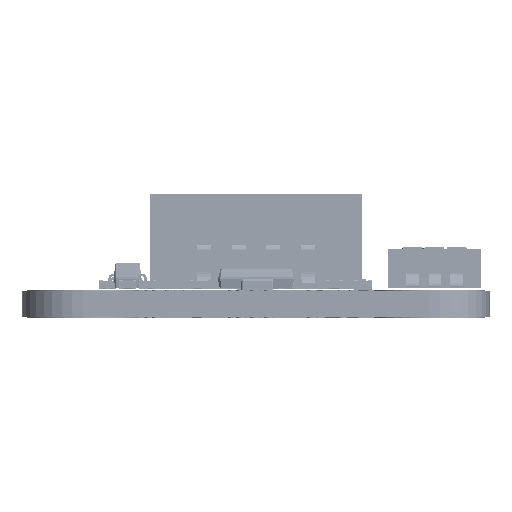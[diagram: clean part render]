
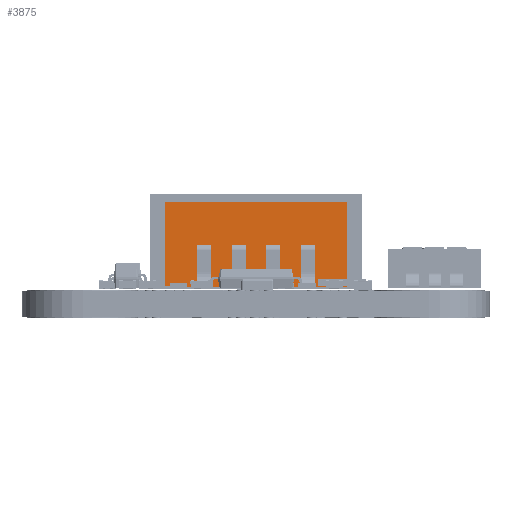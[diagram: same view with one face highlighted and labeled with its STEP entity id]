
A CAD part, left-side view. The second image highlights one B-rep face of the part: STEP entity #3875.
In plain terms, the highlighted planar face has unit normal (-1, 0, 0).
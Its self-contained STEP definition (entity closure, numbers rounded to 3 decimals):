
#3875=ADVANCED_FACE('',(#12161),#135298,.T.);
#12161=FACE_OUTER_BOUND('',#20540,.T.);
#20540=EDGE_LOOP('',(#36154,#36155,#36156,#36157));
#36154=ORIENTED_EDGE('',*,*,#74242,.F.);
#36155=ORIENTED_EDGE('',*,*,#74244,.T.);
#36156=ORIENTED_EDGE('',*,*,#74245,.T.);
#36157=ORIENTED_EDGE('',*,*,#74246,.T.);
#74242=EDGE_CURVE('',#120168,#120169,#104188,.T.);
#74244=EDGE_CURVE('',#120168,#120170,#104190,.T.);
#74245=EDGE_CURVE('',#120170,#120171,#104191,.T.);
#74246=EDGE_CURVE('',#120171,#120169,#104192,.T.);
#104188=B_SPLINE_CURVE_WITH_KNOTS('',1,(#184063,#184064),.UNSPECIFIED.,
 .F.,.F.,(2,2),(0.,4.9),.UNSPECIFIED.);
#104190=B_SPLINE_CURVE_WITH_KNOTS('',1,(#184067,#184068),.UNSPECIFIED.,
 .F.,.F.,(2,2),(0.,10.465),.UNSPECIFIED.);
#104191=B_SPLINE_CURVE_WITH_KNOTS('',1,(#184069,#184070),.UNSPECIFIED.,
 .F.,.F.,(2,2),(0.,4.9),.UNSPECIFIED.);
#104192=B_SPLINE_CURVE_WITH_KNOTS('',1,(#184071,#184072),.UNSPECIFIED.,
 .F.,.F.,(2,2),(0.,10.465),.UNSPECIFIED.);
#120168=VERTEX_POINT('',#184053);
#120169=VERTEX_POINT('',#184054);
#120170=VERTEX_POINT('',#184055);
#120171=VERTEX_POINT('',#184056);
#135298=PLANE('',#142179);
#142179=AXIS2_PLACEMENT_3D('',#184046,#155433,$);
#155433=DIRECTION('',(-1.,0.,0.));
#184046=CARTESIAN_POINT('',(10.615,-6.279,7.111));
#184053=CARTESIAN_POINT('',(10.615,-5.232,6.621));
#184054=CARTESIAN_POINT('',(10.615,-5.232,1.721));
#184055=CARTESIAN_POINT('',(10.615,5.232,6.621));
#184056=CARTESIAN_POINT('',(10.615,5.232,1.721));
#184063=CARTESIAN_POINT('',(10.615,-5.232,6.621));
#184064=CARTESIAN_POINT('',(10.615,-5.232,1.721));
#184067=CARTESIAN_POINT('',(10.615,-5.232,6.621));
#184068=CARTESIAN_POINT('',(10.615,5.232,6.621));
#184069=CARTESIAN_POINT('',(10.615,5.232,6.621));
#184070=CARTESIAN_POINT('',(10.615,5.232,1.721));
#184071=CARTESIAN_POINT('',(10.615,5.232,1.721));
#184072=CARTESIAN_POINT('',(10.615,-5.232,1.721));
